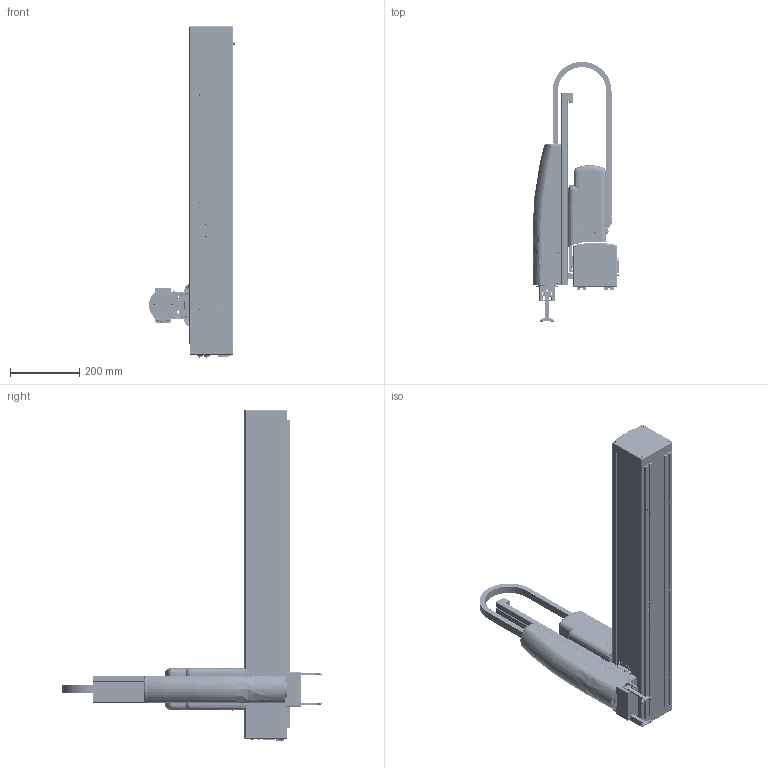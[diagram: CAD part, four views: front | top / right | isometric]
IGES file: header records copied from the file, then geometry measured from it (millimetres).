
Start section: SolidWorks IGES file using analytic representation for surfaces
Global section: file name: C:\Users\paul\Desktop\IGES CHECK\Assy_Main_685mm_X_by_229mm_Z_ProdA_PP00_ShellEXT_021716_IGES.IGS; native system: SolidWorks 2015; preprocessor: SolidWorks 2015; author: paul; date: 160217.104141; units: millimetre
Bounding box: 248.37 x 749.79 x 956.47 mm (x, y, z)
Surface area: 2951051 mm2 (no closed solid volume)
Topology: 0 solids, 0 shells, 13597 faces, 167470 edges, 167196 vertices
Faces by surface type: bspline 7070, revolution 6527
